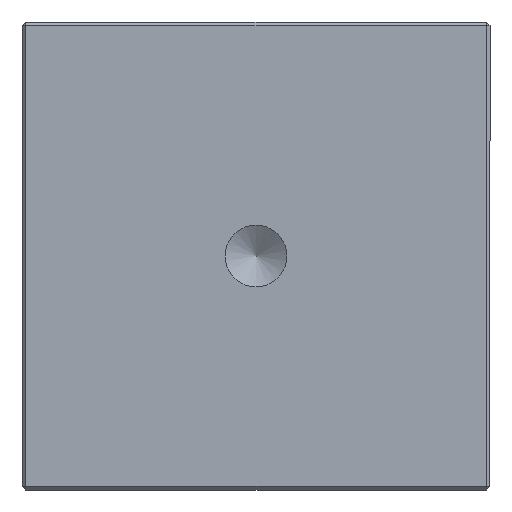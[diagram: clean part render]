
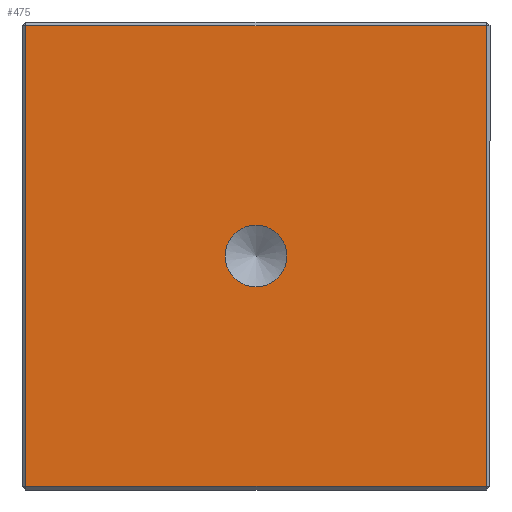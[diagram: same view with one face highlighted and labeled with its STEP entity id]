
A CAD part, front view. The second image highlights one B-rep face of the part: STEP entity #475.
In plain terms, the highlighted planar face has unit normal (0, -1, 0).
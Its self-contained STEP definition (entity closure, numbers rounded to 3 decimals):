
#3 = CARTESIAN_POINT ( 'NONE',  ( 0., 0., 0. ) ) ;
#15 = DIRECTION ( 'NONE',  ( 0., 0., -1. ) ) ;
#30 = ORIENTED_EDGE ( 'NONE', *, *, #1079, .F. ) ;
#63 = CARTESIAN_POINT ( 'NONE',  ( 0., 0., 0. ) ) ;
#126 = EDGE_LOOP ( 'NONE', ( #1329, #313, #175, #1501 ) ) ;
#156 = VERTEX_POINT ( 'NONE', #546 ) ;
#175 = ORIENTED_EDGE ( 'NONE', *, *, #762, .T. ) ;
#258 = AXIS2_PLACEMENT_3D ( 'NONE', #63, #1009, #1497 ) ;
#299 = EDGE_LOOP ( 'NONE', ( #30 ) ) ;
#313 = ORIENTED_EDGE ( 'NONE', *, *, #535, .T. ) ;
#348 = CARTESIAN_POINT ( 'NONE',  ( 0., 0., -12.3 ) ) ;
#376 = CIRCLE ( 'NONE', #1356, 1.65 ) ;
#405 = CARTESIAN_POINT ( 'NONE',  ( 12.3, 0., 12.3 ) ) ;
#421 = PLANE ( 'NONE',  #258 ) ;
#475 = ADVANCED_FACE ( 'NONE', ( #665, #540 ), #421, .F. ) ;
#535 = EDGE_CURVE ( 'NONE', #675, #869, #1167, .T. ) ;
#540 = FACE_BOUND ( 'NONE', #299, .T. ) ;
#546 = CARTESIAN_POINT ( 'NONE',  ( 12.3, 0., -12.3 ) ) ;
#578 = LINE ( 'NONE', #1416, #1232 ) ;
#624 = VECTOR ( 'NONE', #656, 1000. ) ;
#643 = VERTEX_POINT ( 'NONE', #775 ) ;
#645 = CARTESIAN_POINT ( 'NONE',  ( 12.3, 0., 0. ) ) ;
#656 = DIRECTION ( 'NONE',  ( 0., 0., 1. ) ) ;
#665 = FACE_OUTER_BOUND ( 'NONE', #126, .T. ) ;
#666 = CARTESIAN_POINT ( 'NONE',  ( -12.3, 0., 12.3 ) ) ;
#675 = VERTEX_POINT ( 'NONE', #405 ) ;
#725 = DIRECTION ( 'NONE',  ( 1., 0., 0. ) ) ;
#742 = EDGE_CURVE ( 'NONE', #1456, #156, #1050, .T. ) ;
#762 = EDGE_CURVE ( 'NONE', #869, #1456, #578, .T. ) ;
#775 = CARTESIAN_POINT ( 'NONE',  ( 0., 0., -1.65 ) ) ;
#790 = LINE ( 'NONE', #645, #624 ) ;
#800 = VECTOR ( 'NONE', #1120, 1000. ) ;
#869 = VERTEX_POINT ( 'NONE', #666 ) ;
#1009 = DIRECTION ( 'NONE',  ( 0., 1., 0. ) ) ;
#1050 = LINE ( 'NONE', #348, #1431 ) ;
#1079 = EDGE_CURVE ( 'NONE', #643, #643, #376, .T. ) ;
#1097 = CARTESIAN_POINT ( 'NONE',  ( -12.3, 0., -12.3 ) ) ;
#1120 = DIRECTION ( 'NONE',  ( -1., 0., 0. ) ) ;
#1167 = LINE ( 'NONE', #1495, #800 ) ;
#1184 = DIRECTION ( 'NONE',  ( 0., 0., -1. ) ) ;
#1232 = VECTOR ( 'NONE', #1184, 1000. ) ;
#1262 = EDGE_CURVE ( 'NONE', #156, #675, #790, .T. ) ;
#1324 = DIRECTION ( 'NONE',  ( 0., -1., 0. ) ) ;
#1329 = ORIENTED_EDGE ( 'NONE', *, *, #1262, .T. ) ;
#1356 = AXIS2_PLACEMENT_3D ( 'NONE', #3, #1324, #15 ) ;
#1416 = CARTESIAN_POINT ( 'NONE',  ( -12.3, 0., 0. ) ) ;
#1431 = VECTOR ( 'NONE', #725, 1000. ) ;
#1456 = VERTEX_POINT ( 'NONE', #1097 ) ;
#1495 = CARTESIAN_POINT ( 'NONE',  ( 0., 0., 12.3 ) ) ;
#1497 = DIRECTION ( 'NONE',  ( 0., 0., 1. ) ) ;
#1501 = ORIENTED_EDGE ( 'NONE', *, *, #742, .T. ) ;
